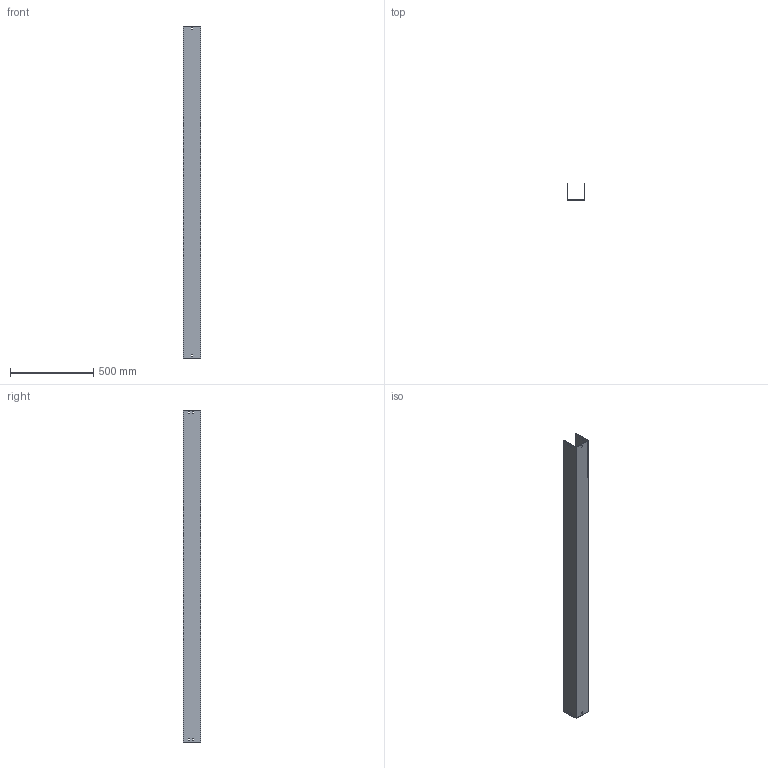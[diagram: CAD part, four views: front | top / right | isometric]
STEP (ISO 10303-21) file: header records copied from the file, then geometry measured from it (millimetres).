
FILE_DESCRIPTION (( 'STEP AP214' ), '1' );
FILE_NAME ('03F2D100.step', '2025-02-21T13:15:44', ( '' ), ( '' ), 'SwSTEP 2.0', 'SolidWorks 2023', '' );
FILE_SCHEMA (( 'AUTOMOTIVE_DESIGN' ));
Length unit declared in the file: millimetre
Products named in the file (1): 03F2D100
Bounding box: 104 x 104 x 2000 mm (x, y, z)
Volume: 2132630.5 mm3; surface area: 1235950 mm2
Topology: 1 solids, 1 shells, 50 faces, 144 edges, 96 vertices
Faces by surface type: plane 50
Entity records: 1671 total; most frequent: CARTESIAN_POINT 291, ORIENTED_EDGE 288, DIRECTION 246, EDGE_CURVE 144, VECTOR 144, LINE 144, VERTEX_POINT 96, EDGE_LOOP 70
